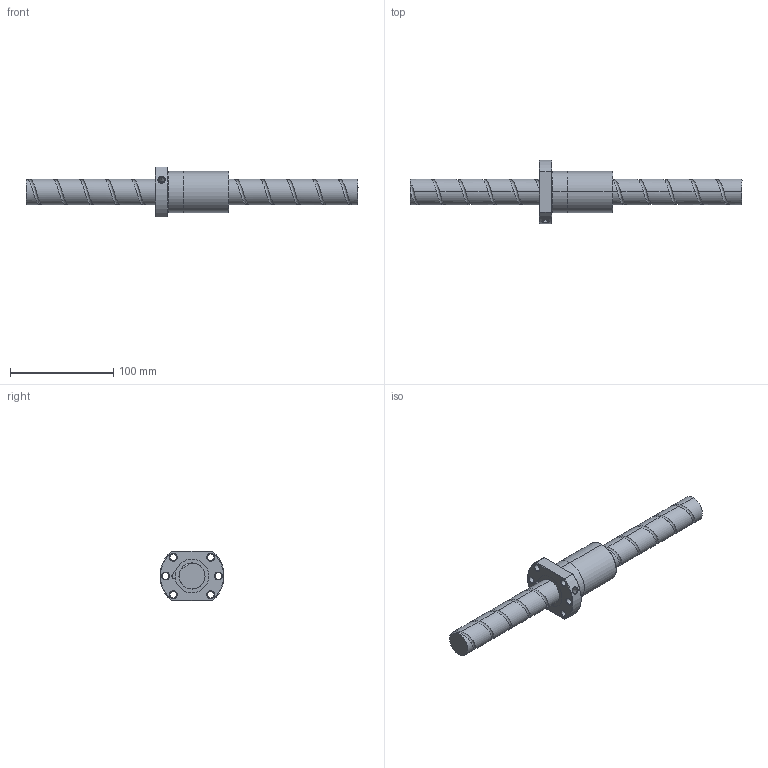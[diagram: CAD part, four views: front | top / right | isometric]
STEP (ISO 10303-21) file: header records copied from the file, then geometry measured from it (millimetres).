
FILE_DESCRIPTION (( 'STEP AP214' ), '1' );
FILE_NAME ('FSDC02525T2-B-C.STEP', '2010-06-25T11:46:48', ( 'XPAUTO' ), ( 'XPAUTO' ), 'SwSTEP 2.0', 'SolidWorks 2007', '' );
FILE_SCHEMA (( 'AUTOMOTIVE_DESIGN' ));
Length unit declared in the file: millimetre
Products named in the file (3): FSDC02525T2-B-C; FSDC02525T2-B-C.sldasm-Part-2_預設; FSDC02525T2-B-C.sldasm-Part-1_預設
Assembly tree (2 placements, depth 2):
  FSDC02525T2-B-C
    FSDC02525T2-B-C.sldasm-Part-1_預設
    FSDC02525T2-B-C.sldasm-Part-2_預設
Bounding box: 321 x 61.8 x 48 mm (x, y, z)
Volume: 221209.2 mm3; surface area: 48308.4 mm2
Topology: 2 solids, 2 shells, 123 faces, 303 edges, 189 vertices
Faces by surface type: cylinder 66, cone 24, plane 22, torus 6, bspline 5
Entity records: 24571 total; most frequent: CARTESIAN_POINT 21637, ORIENTED_EDGE 606, DIRECTION 579, EDGE_CURVE 303, AXIS2_PLACEMENT_3D 236, VERTEX_POINT 189, EDGE_LOOP 144, FACE_OUTER_BOUND 123
